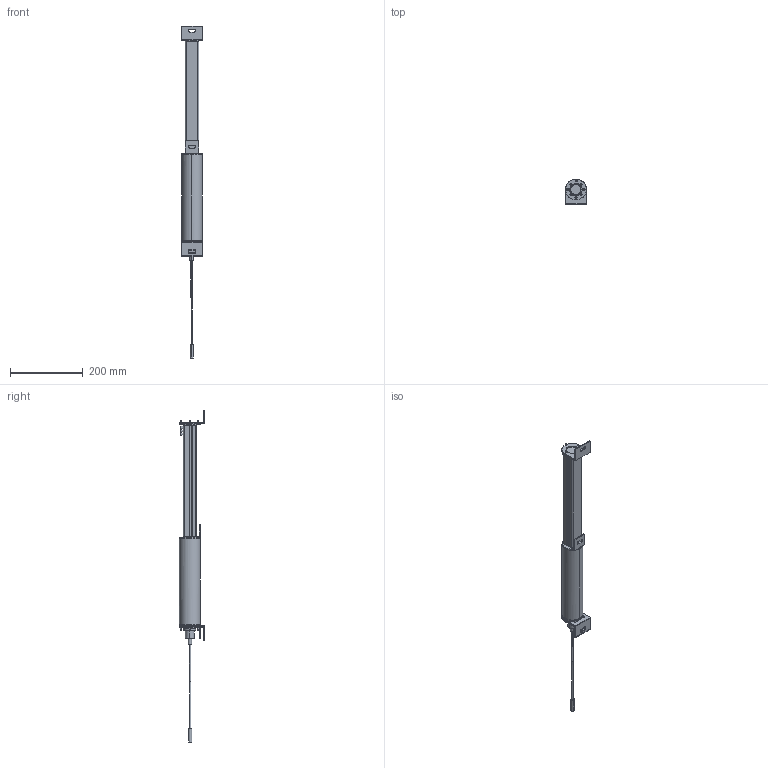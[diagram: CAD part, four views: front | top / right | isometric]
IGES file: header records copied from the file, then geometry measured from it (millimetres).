
Global section: file name: C:\ACADFILES\SS_PYLONS\CUSTOMER_FILES\SS-20-PYLON_3D_SMB.igs; native system: AutoCAD-18.2s (LMS Tech) (Microsoft Windows NT Version 6.1 (x86)); preprocessor: Autodesk IGES Translator Mechanical Desktop 2011 (Feb 18 2011) from Autodesk, Inc.; date: 20140326.151526; units: inch
Bounding box: 57.29 x 69.85 x 914.77 mm (x, y, z)
Surface area: 379095.9 mm2 (no closed solid volume)
Topology: 0 solids, 0 shells, 1800 faces, 9329 edges, 9504 vertices
Faces by surface type: bspline 1800
